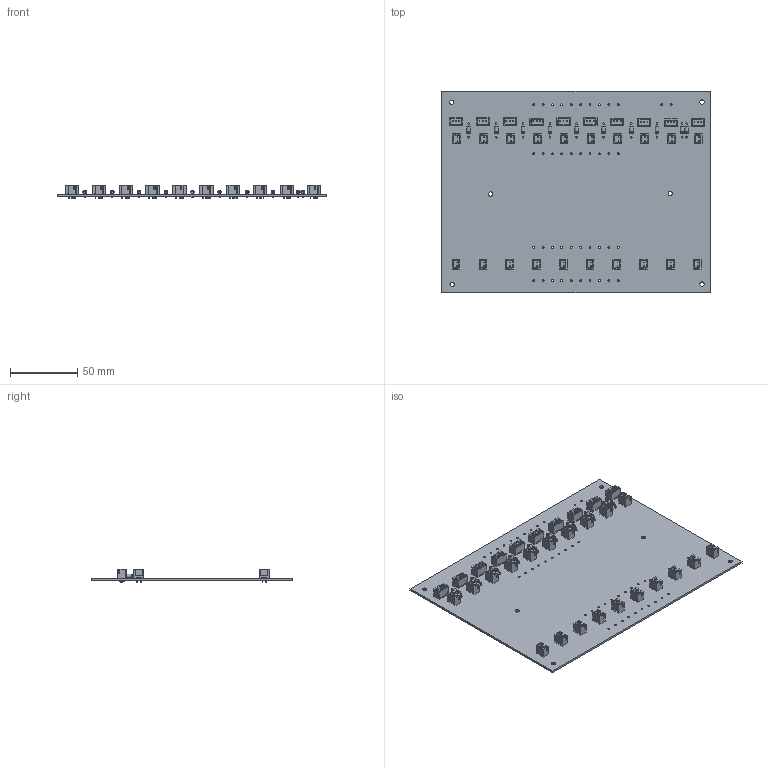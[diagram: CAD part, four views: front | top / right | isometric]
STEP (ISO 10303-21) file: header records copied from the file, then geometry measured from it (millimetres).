
FILE_DESCRIPTION(('KiCad electronic assembly'),'2;1');
FILE_NAME('.step','2026-05-05T03:34:26',('Pcbnew'),('Kicad'), 'Open CASCADE STEP processor 7.9','KiCad to STEP converter','Unknown' );
FILE_SCHEMA(('AUTOMOTIVE_DESIGN { 1 0 10303 214 1 1 1 1 }'));
Length unit declared in the file: millimetre
Products named in the file (5): .step 1; JST_XH_B2B-XH-A_1x02_P2.50mm_Vertical; D_DO-41_SOD81_P10.16mm_Horizontal; JST_XH_B3B-XH-A_1x03_P2.50mm_Vertical; SPS_Platine_PCB
Assembly tree (41 placements, depth 2):
  .step 1
    JST_XH_B2B-XH-A_1x02_P2.50mm_Vertical  x20
    D_DO-41_SOD81_P10.16mm_Horizontal  x10
    JST_XH_B3B-XH-A_1x03_P2.50mm_Vertical  x10
    SPS_Platine_PCB
Bounding box: 200 x 150 x 10.4 mm (x, y, z)
Volume: 50507.8 mm3; surface area: 75549.3 mm2
Topology: 41 solids, 41 shells, 3254 faces, 8556 edges, 5564 vertices
Faces by surface type: plane 2896, cylinder 338, torus 20
Full cylindrical faces by diameter (mm): 0.8 x40, 0.95 x30, 1 x40, 1.1 x20, 1.2 x10, 1.35 x42, 2.7 x20, 2.72 x10, 3.2 x6
Entity records: 14441 total; most frequent: DIRECTION 2189, CARTESIAN_POINT 2118, ORIENTED_EDGE 2054, EDGE_CURVE 1027, AXIS2_PLACEMENT_3D 745, LINE 699, VECTOR 699, FACE_BOUND 685
